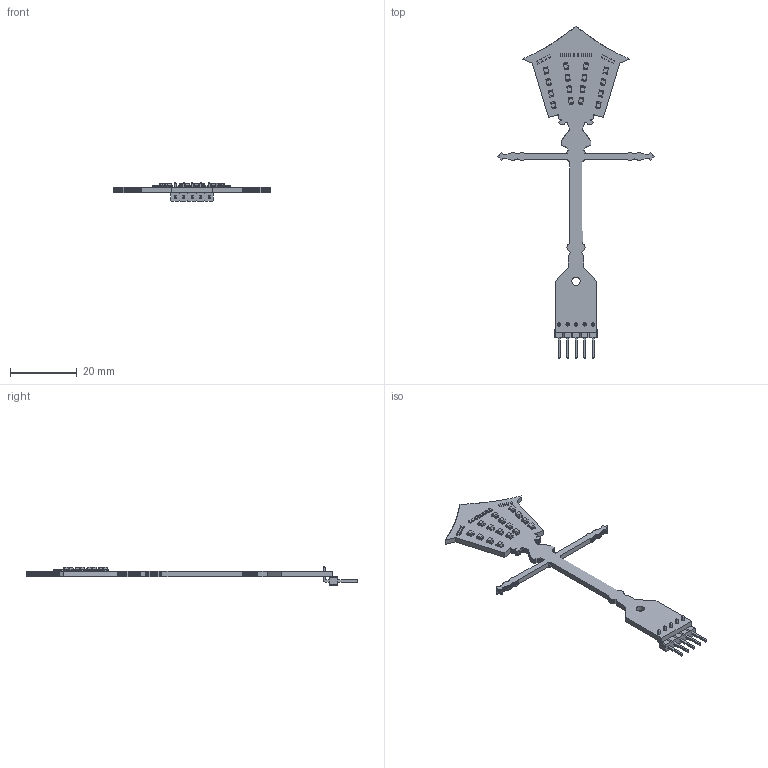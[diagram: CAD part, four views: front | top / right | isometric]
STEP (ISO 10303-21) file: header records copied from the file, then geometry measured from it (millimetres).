
FILE_DESCRIPTION(('KiCad electronic assembly'),'2;1');
FILE_NAME('STP_AXM0023.step','2024-11-12T16:41:05',('Pcbnew'),('Kicad'), 'Open CASCADE STEP processor 7.8','KiCad to STEP converter','Unknown' );
FILE_SCHEMA(('AUTOMOTIVE_DESIGN { 1 0 10303 214 1 1 1 1 }'));
Length unit declared in the file: millimetre
Products named in the file (8): STP_AXM0023 1; LED_0805_2012Metric; R_0402_1005Metric; PinHeader_1x05_P2.54mm_Horizontal; PinHeader_1x05_P254mm_Horizontal; StreetLight_PCB
Assembly tree (37 placements, depth 3):
  STP_AXM0023 1
    LED_0805_2012Metric  x16
      LED_0805_2012Metric
    R_0402_1005Metric  x16
      R_0402_1005Metric
    PinHeader_1x05_P2.54mm_Horizontal
      PinHeader_1x05_P254mm_Horizontal
    StreetLight_PCB
Bounding box: 46.92 x 99.34 x 5.54 mm (x, y, z)
Volume: 1780.2 mm3; surface area: 3117.9 mm2
Topology: 34 solids, 34 shells, 1880 faces, 5126 edges, 3340 vertices
Faces by surface type: plane 1613, cylinder 267
Full cylindrical faces by diameter (mm): 1 x5, 2.5 x1
Entity records: 25490 total; most frequent: CARTESIAN_POINT 4279, ORIENTED_EDGE 4222, DIRECTION 3721, EDGE_CURVE 2111, LINE 2057, VECTOR 2057, VERTEX_POINT 1390, AXIS2_PLACEMENT_3D 832
